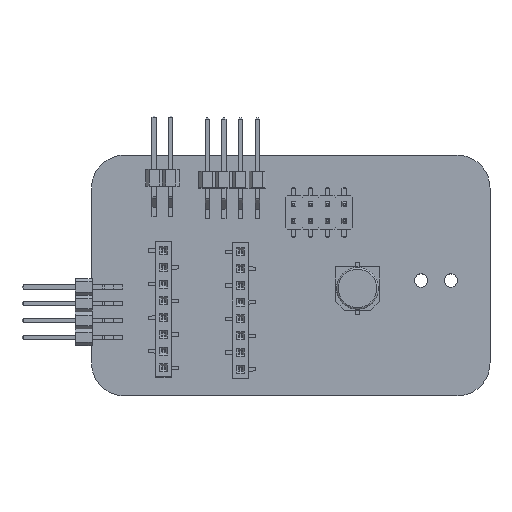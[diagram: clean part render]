
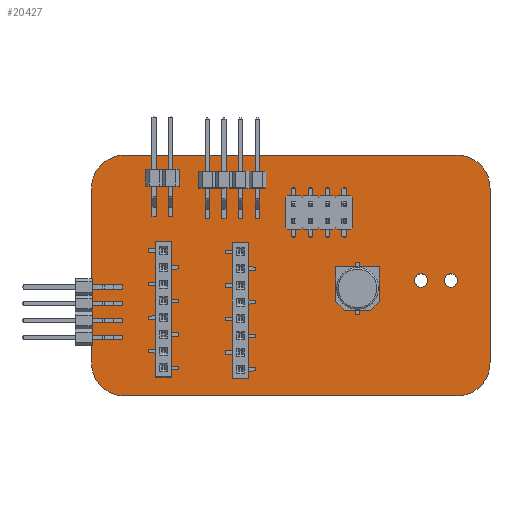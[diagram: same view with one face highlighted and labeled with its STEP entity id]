
A CAD part, top view. The second image highlights one B-rep face of the part: STEP entity #20427.
In plain terms, the highlighted planar face has unit normal (0, 0, 1).
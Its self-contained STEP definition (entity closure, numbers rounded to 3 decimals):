
#20256 = VERTEX_POINT('',#20257);
#20257 = CARTESIAN_POINT('',(211.85,-30.14,1.51));
#20263 = EDGE_CURVE('',#20256,#20264,#20266,.T.);
#20264 = VERTEX_POINT('',#20265);
#20265 = CARTESIAN_POINT('',(216.85,-35.14,1.51));
#20266 = CIRCLE('',#20267,5.);
#20267 = AXIS2_PLACEMENT_3D('',#20268,#20269,#20270);
#20268 = CARTESIAN_POINT('',(211.85,-35.14,1.51));
#20269 = DIRECTION('',(0.,0.,-1.));
#20270 = DIRECTION('',(0.,1.,0.));
#20298 = VERTEX_POINT('',#20299);
#20299 = CARTESIAN_POINT('',(161.53,-30.14,1.51));
#20305 = EDGE_CURVE('',#20298,#20256,#20306,.T.);
#20306 = LINE('',#20307,#20308);
#20307 = CARTESIAN_POINT('',(161.53,-30.14,1.51));
#20308 = VECTOR('',#20309,1.);
#20309 = DIRECTION('',(1.,0.,0.));
#20327 = EDGE_CURVE('',#20264,#20328,#20330,.T.);
#20328 = VERTEX_POINT('',#20329);
#20329 = CARTESIAN_POINT('',(216.85,-61.61,1.51));
#20330 = LINE('',#20331,#20332);
#20331 = CARTESIAN_POINT('',(216.85,-35.14,1.51));
#20332 = VECTOR('',#20333,1.);
#20333 = DIRECTION('',(0.,-1.,0.));
#20427 = ADVANCED_FACE('',(#20428,#20474,#20485),#20496,.T.);
#20428 = FACE_BOUND('',#20429,.T.);
#20429 = EDGE_LOOP('',(#20430,#20431,#20432,#20441,#20449,#20458,#20466,
    #20473));
#20430 = ORIENTED_EDGE('',*,*,#20263,.F.);
#20431 = ORIENTED_EDGE('',*,*,#20305,.F.);
#20432 = ORIENTED_EDGE('',*,*,#20433,.F.);
#20433 = EDGE_CURVE('',#20434,#20298,#20436,.T.);
#20434 = VERTEX_POINT('',#20435);
#20435 = CARTESIAN_POINT('',(156.53,-35.14,1.51));
#20436 = CIRCLE('',#20437,5.);
#20437 = AXIS2_PLACEMENT_3D('',#20438,#20439,#20440);
#20438 = CARTESIAN_POINT('',(161.53,-35.14,1.51));
#20439 = DIRECTION('',(0.,0.,-1.));
#20440 = DIRECTION('',(-1.,0.,-0.));
#20441 = ORIENTED_EDGE('',*,*,#20442,.F.);
#20442 = EDGE_CURVE('',#20443,#20434,#20445,.T.);
#20443 = VERTEX_POINT('',#20444);
#20444 = CARTESIAN_POINT('',(156.53,-61.61,1.51));
#20445 = LINE('',#20446,#20447);
#20446 = CARTESIAN_POINT('',(156.53,-61.61,1.51));
#20447 = VECTOR('',#20448,1.);
#20448 = DIRECTION('',(0.,1.,0.));
#20449 = ORIENTED_EDGE('',*,*,#20450,.F.);
#20450 = EDGE_CURVE('',#20451,#20443,#20453,.T.);
#20451 = VERTEX_POINT('',#20452);
#20452 = CARTESIAN_POINT('',(161.53,-66.61,1.51));
#20453 = CIRCLE('',#20454,5.);
#20454 = AXIS2_PLACEMENT_3D('',#20455,#20456,#20457);
#20455 = CARTESIAN_POINT('',(161.53,-61.61,1.51));
#20456 = DIRECTION('',(0.,0.,-1.));
#20457 = DIRECTION('',(0.,-1.,0.));
#20458 = ORIENTED_EDGE('',*,*,#20459,.F.);
#20459 = EDGE_CURVE('',#20460,#20451,#20462,.T.);
#20460 = VERTEX_POINT('',#20461);
#20461 = CARTESIAN_POINT('',(211.85,-66.61,1.51));
#20462 = LINE('',#20463,#20464);
#20463 = CARTESIAN_POINT('',(211.85,-66.61,1.51));
#20464 = VECTOR('',#20465,1.);
#20465 = DIRECTION('',(-1.,0.,0.));
#20466 = ORIENTED_EDGE('',*,*,#20467,.F.);
#20467 = EDGE_CURVE('',#20328,#20460,#20468,.T.);
#20468 = CIRCLE('',#20469,5.);
#20469 = AXIS2_PLACEMENT_3D('',#20470,#20471,#20472);
#20470 = CARTESIAN_POINT('',(211.85,-61.61,1.51));
#20471 = DIRECTION('',(0.,0.,-1.));
#20472 = DIRECTION('',(1.,0.,0.));
#20473 = ORIENTED_EDGE('',*,*,#20327,.F.);
#20474 = FACE_BOUND('',#20475,.T.);
#20475 = EDGE_LOOP('',(#20476));
#20476 = ORIENTED_EDGE('',*,*,#20477,.T.);
#20477 = EDGE_CURVE('',#20478,#20478,#20480,.T.);
#20478 = VERTEX_POINT('',#20479);
#20479 = CARTESIAN_POINT('',(206.42,-50.13,1.51));
#20480 = CIRCLE('',#20481,1.);
#20481 = AXIS2_PLACEMENT_3D('',#20482,#20483,#20484);
#20482 = CARTESIAN_POINT('',(206.42,-49.13,1.51));
#20483 = DIRECTION('',(-0.,0.,-1.));
#20484 = DIRECTION('',(-0.,-1.,0.));
#20485 = FACE_BOUND('',#20486,.T.);
#20486 = EDGE_LOOP('',(#20487));
#20487 = ORIENTED_EDGE('',*,*,#20488,.T.);
#20488 = EDGE_CURVE('',#20489,#20489,#20491,.T.);
#20489 = VERTEX_POINT('',#20490);
#20490 = CARTESIAN_POINT('',(210.92,-50.13,1.51));
#20491 = CIRCLE('',#20492,1.);
#20492 = AXIS2_PLACEMENT_3D('',#20493,#20494,#20495);
#20493 = CARTESIAN_POINT('',(210.92,-49.13,1.51));
#20494 = DIRECTION('',(-0.,0.,-1.));
#20495 = DIRECTION('',(-0.,-1.,0.));
#20496 = PLANE('',#20497);
#20497 = AXIS2_PLACEMENT_3D('',#20498,#20499,#20500);
#20498 = CARTESIAN_POINT('',(0.,0.,1.51));
#20499 = DIRECTION('',(0.,0.,1.));
#20500 = DIRECTION('',(1.,0.,-0.));
